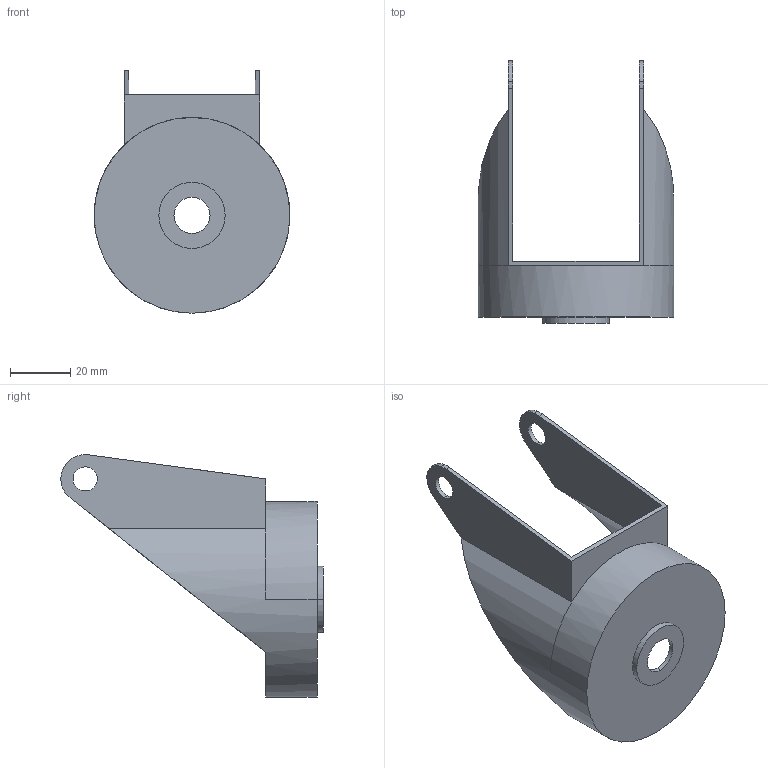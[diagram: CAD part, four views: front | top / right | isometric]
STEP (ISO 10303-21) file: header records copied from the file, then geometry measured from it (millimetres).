
FILE_DESCRIPTION((''),'2;1');
FILE_NAME('RUP100_2','2002-12-27T',('Lipro doo'),('Lipro d.o.o.'),'PRO/ENGINEER BY PARAMETRIC TECHNOLOGY CORPORATION, 2001150','PRO/ENGINEER BY PARAMETRIC TECHNOLOGY CORPORATION, 2001150','');
FILE_SCHEMA(('CONFIG_CONTROL_DESIGN'));
Length unit declared in the file: millimetre
Products named in the file (1): RUP100_2
Bounding box: 65 x 87.05 x 80.5 mm (x, y, z)
Volume: 17767.6 mm3; surface area: 24491.2 mm2
Topology: 1 solids, 1 shells, 32 faces, 85 edges, 57 vertices
Faces by surface type: plane 16, cylinder 16
Entity records: 1084 total; most frequent: CARTESIAN_POINT 208, DIRECTION 178, ORIENTED_EDGE 170, EDGE_CURVE 85, AXIS2_PLACEMENT_3D 67, VERTEX_POINT 57, VECTOR 44, LINE 44
